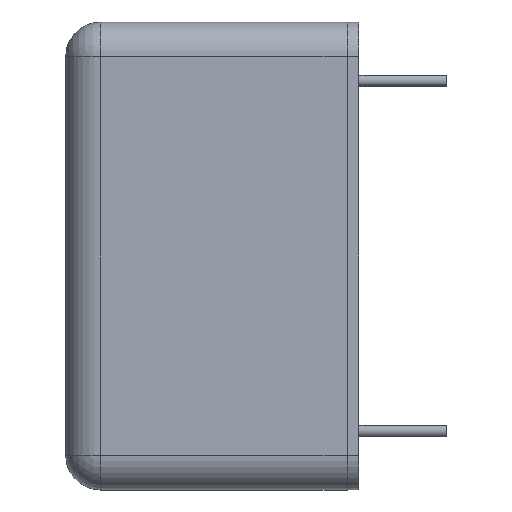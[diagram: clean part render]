
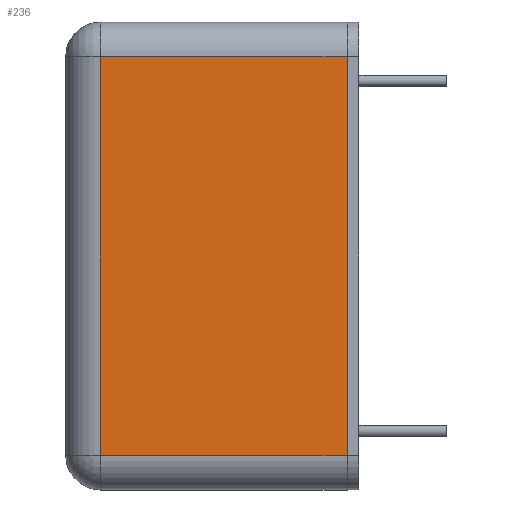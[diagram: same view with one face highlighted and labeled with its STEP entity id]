
A CAD part, left-side view. The second image highlights one B-rep face of the part: STEP entity #236.
In plain terms, the highlighted planar face has unit normal (-1, 0, 0) as drawn and (0, 0, 1) by its records, which use the part's own axes.
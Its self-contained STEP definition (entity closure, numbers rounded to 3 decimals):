
#119 = VERTEX_POINT ( 'NONE', #1017 ) ;
#122 = EDGE_CURVE ( 'NONE', #240, #119, #1016, .T. ) ;
#190 = EDGE_CURVE ( 'NONE', #119, #262, #1174, .T. ) ;
#236 = ADVANCED_FACE ( 'NONE', ( #1261 ), #1320, .F. ) ;
#237 = ORIENTED_EDGE ( 'NONE', *, *, #238, .T. ) ;
#238 = EDGE_CURVE ( 'NONE', #239, #240, #1321, .T. ) ;
#239 = VERTEX_POINT ( 'NONE', #1312 ) ;
#240 = VERTEX_POINT ( 'NONE', #1311 ) ;
#241 = ORIENTED_EDGE ( 'NONE', *, *, #122, .T. ) ;
#258 = EDGE_CURVE ( 'NONE', #262, #239, #1343, .T. ) ;
#259 = ORIENTED_EDGE ( 'NONE', *, *, #258, .T. ) ;
#261 = ORIENTED_EDGE ( 'NONE', *, *, #190, .T. ) ;
#262 = VERTEX_POINT ( 'NONE', #1338 ) ;
#307 = EDGE_LOOP ( 'NONE', ( #237, #241, #261, #259 ) ) ;
#1013 = DIRECTION ( 'NONE',  ( 0., -1., 0. ) ) ;
#1014 = VECTOR ( 'NONE', #1013, 1000. ) ;
#1015 = CARTESIAN_POINT ( 'NONE',  ( -8.65, 12.2, 15.9 ) ) ;
#1016 = LINE ( 'NONE', #1015, #1014 ) ;
#1017 = CARTESIAN_POINT ( 'NONE',  ( -8.65, 0., 15.9 ) ) ;
#1171 = DIRECTION ( 'NONE',  ( 1., 0., 0. ) ) ;
#1172 = VECTOR ( 'NONE', #1171, 1000. ) ;
#1173 = CARTESIAN_POINT ( 'NONE',  ( -10.15, 0., 15.9 ) ) ;
#1174 = LINE ( 'NONE', #1173, #1172 ) ;
#1261 = FACE_OUTER_BOUND ( 'NONE', #307, .T. ) ;
#1311 = CARTESIAN_POINT ( 'NONE',  ( -8.65, 10.7, 15.9 ) ) ;
#1312 = CARTESIAN_POINT ( 'NONE',  ( 8.65, 10.7, 15.9 ) ) ;
#1313 = DIRECTION ( 'NONE',  ( -1., 0., 0. ) ) ;
#1314 = VECTOR ( 'NONE', #1313, 1000. ) ;
#1315 = CARTESIAN_POINT ( 'NONE',  ( -10.15, 10.7, 15.9 ) ) ;
#1316 = DIRECTION ( 'NONE',  ( -1., 0., 0. ) ) ;
#1317 = DIRECTION ( 'NONE',  ( 0., 0., -1. ) ) ;
#1318 = CARTESIAN_POINT ( 'NONE',  ( -10.15, 12.2, 15.9 ) ) ;
#1319 = AXIS2_PLACEMENT_3D ( 'NONE', #1318, #1317, #1316 ) ;
#1320 = PLANE ( 'NONE',  #1319 ) ;
#1321 = LINE ( 'NONE', #1315, #1314 ) ;
#1338 = CARTESIAN_POINT ( 'NONE',  ( 8.65, 0., 15.9 ) ) ;
#1340 = DIRECTION ( 'NONE',  ( 0., 1., 0. ) ) ;
#1341 = VECTOR ( 'NONE', #1340, 1000. ) ;
#1342 = CARTESIAN_POINT ( 'NONE',  ( 8.65, 12.2, 15.9 ) ) ;
#1343 = LINE ( 'NONE', #1342, #1341 ) ;
